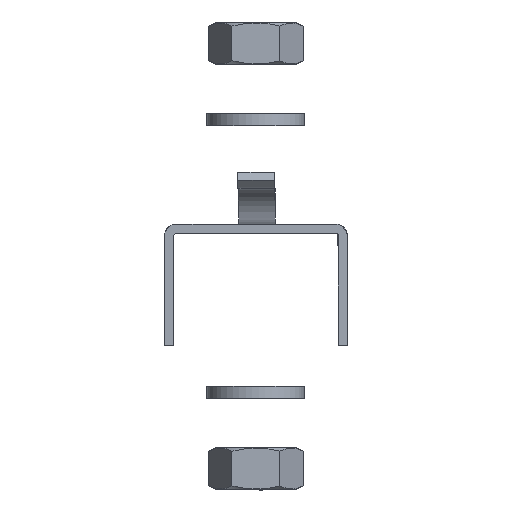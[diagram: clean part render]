
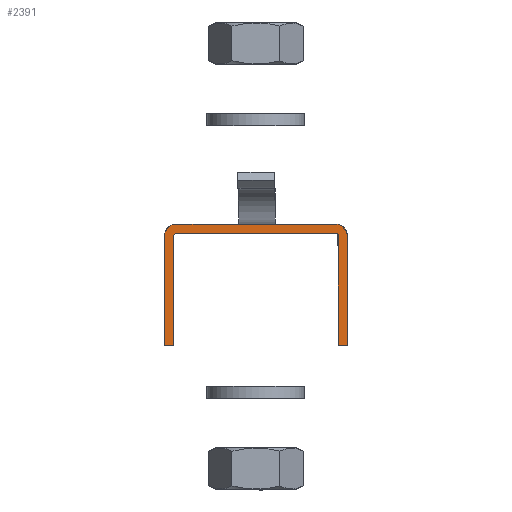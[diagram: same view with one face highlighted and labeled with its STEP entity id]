
A CAD part, front view. The second image highlights one B-rep face of the part: STEP entity #2391.
In plain terms, the highlighted planar face has unit normal (0, -1, 0).
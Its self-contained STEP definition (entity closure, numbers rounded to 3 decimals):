
#510=(
BOUNDED_CURVE()
B_SPLINE_CURVE(2,(#11301,#11302,#11303,#11304,#11305,#11306,#11307,#11308,
#11309),.UNSPECIFIED.,.F.,.F.)
B_SPLINE_CURVE_WITH_KNOTS((3,2,2,2,3),(-160.571,-159.785,
-133.785,-133.,-115.),.UNSPECIFIED.)
CURVE()
GEOMETRIC_REPRESENTATION_ITEM()
RATIONAL_B_SPLINE_CURVE((1.,0.707,1.,1.,1.,0.707,
1.,1.,1.))
REPRESENTATION_ITEM($)
);
#511=(
BOUNDED_CURVE()
B_SPLINE_CURVE(2,(#11314,#11315,#11316,#11317,#11318,#11319,#11320,#11321,
#11322,#11323,#11324),.UNSPECIFIED.,.F.,.F.)
B_SPLINE_CURVE_WITH_KNOTS((3,2,2,2,2,3),(-113.5,-95.5,-92.358,
-66.358,-63.217,-45.217),.UNSPECIFIED.)
CURVE()
GEOMETRIC_REPRESENTATION_ITEM()
RATIONAL_B_SPLINE_CURVE((1.,1.,1.,0.707,1.,1.,1.,0.707,
1.,1.,1.))
REPRESENTATION_ITEM($)
);
#2391=ADVANCED_FACE($,(#2583),#5401,.T.);
#2583=FACE_OUTER_BOUND($,#2797,.T.);
#2797=EDGE_LOOP($,(#3496,#3497,#3498,#3499,#3500));
#3496=ORIENTED_EDGE($,*,*,#4358,.T.);
#3497=ORIENTED_EDGE($,*,*,#4362,.T.);
#3498=ORIENTED_EDGE($,*,*,#4361,.T.);
#3499=ORIENTED_EDGE($,*,*,#4360,.T.);
#3500=ORIENTED_EDGE($,*,*,#4359,.T.);
#4358=EDGE_CURVE($,#5160,#5164,#510,.T.);
#4359=EDGE_CURVE($,#5161,#5160,#5696,.T.);
#4360=EDGE_CURVE($,#5162,#5161,#5697,.T.);
#4361=EDGE_CURVE($,#5163,#5162,#511,.T.);
#4362=EDGE_CURVE($,#5164,#5163,#5698,.T.);
#5160=VERTEX_POINT($,#11328);
#5161=VERTEX_POINT($,#11329);
#5162=VERTEX_POINT($,#11330);
#5163=VERTEX_POINT($,#11331);
#5164=VERTEX_POINT($,#11332);
#5401=PLANE($,#5873);
#5696=B_SPLINE_CURVE_WITH_KNOTS($,1,(#11310,#11311),.UNSPECIFIED.,.F.,.F.,
(2,2),(-43.717,-25.717),.UNSPECIFIED.);
#5697=B_SPLINE_CURVE_WITH_KNOTS($,1,(#11312,#11313),.UNSPECIFIED.,.F.,.F.,
(2,2),(-45.217,-43.717),.UNSPECIFIED.);
#5698=B_SPLINE_CURVE_WITH_KNOTS($,1,(#11325,#11326),.UNSPECIFIED.,.F.,.F.,
(2,2),(-115.,-113.5),.UNSPECIFIED.);
#5873=AXIS2_PLACEMENT_3D($,#11327,#5931,$);
#5931=DIRECTION($,(0.,-1.,0.));
#11301=CARTESIAN_POINT($,(-15.,-563.969,-2.));
#11302=CARTESIAN_POINT($,(-15.,-563.969,-1.5));
#11303=CARTESIAN_POINT($,(-14.5,-563.969,-1.5));
#11304=CARTESIAN_POINT($,(-1.5,-563.969,-1.5));
#11305=CARTESIAN_POINT($,(11.5,-563.969,-1.5));
#11306=CARTESIAN_POINT($,(12.,-563.969,-1.5));
#11307=CARTESIAN_POINT($,(12.,-563.969,-2.));
#11308=CARTESIAN_POINT($,(12.,-563.969,-11.));
#11309=CARTESIAN_POINT($,(12.,-563.969,-20.));
#11310=CARTESIAN_POINT($,(-15.,-563.969,-20.));
#11311=CARTESIAN_POINT($,(-15.,-563.969,-2.));
#11312=CARTESIAN_POINT($,(-16.5,-563.969,-20.));
#11313=CARTESIAN_POINT($,(-15.,-563.969,-20.));
#11314=CARTESIAN_POINT($,(13.5,-563.969,-20.));
#11315=CARTESIAN_POINT($,(13.5,-563.969,-11.));
#11316=CARTESIAN_POINT($,(13.5,-563.969,-2.));
#11317=CARTESIAN_POINT($,(13.5,-563.969,0.));
#11318=CARTESIAN_POINT($,(11.5,-563.969,0.));
#11319=CARTESIAN_POINT($,(-1.5,-563.969,0.));
#11320=CARTESIAN_POINT($,(-14.5,-563.969,0.));
#11321=CARTESIAN_POINT($,(-16.5,-563.969,0.));
#11322=CARTESIAN_POINT($,(-16.5,-563.969,-2.));
#11323=CARTESIAN_POINT($,(-16.5,-563.969,-11.));
#11324=CARTESIAN_POINT($,(-16.5,-563.969,-20.));
#11325=CARTESIAN_POINT($,(12.,-563.969,-20.));
#11326=CARTESIAN_POINT($,(13.5,-563.969,-20.));
#11327=CARTESIAN_POINT($,(-16.5,-563.969,-20.));
#11328=CARTESIAN_POINT($,(-15.,-563.969,-2.));
#11329=CARTESIAN_POINT($,(-15.,-563.969,-20.));
#11330=CARTESIAN_POINT($,(-16.5,-563.969,-20.));
#11331=CARTESIAN_POINT($,(13.5,-563.969,-20.));
#11332=CARTESIAN_POINT($,(12.,-563.969,-20.));
